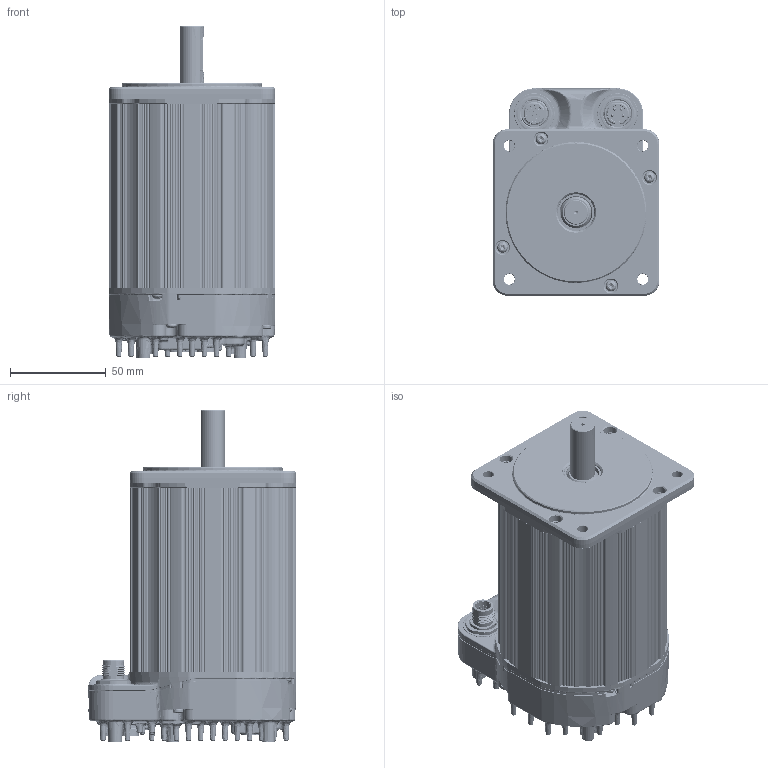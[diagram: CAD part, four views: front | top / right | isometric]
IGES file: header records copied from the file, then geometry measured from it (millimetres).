
Start section: SolidWorks IGES file using analytic representation for surfaces
Global section: file name: C:\TeknicPDM\EtherPath CPM-S\EtherPath CPM-S Customer Files\EC Customer Models\344x EC.IGS; native system: SolidWorks 2020; preprocessor: SolidWorks 2020; author: mike_berezny; date: 231213.181428; units: inch
Bounding box: 86.87 x 108.59 x 173.16 mm (x, y, z)
Surface area: 200980.7 mm2 (no closed solid volume)
Topology: 0 solids, 0 shells, 10991 faces, 113069 edges, 112443 vertices
Faces by surface type: bspline 5527, revolution 5464
